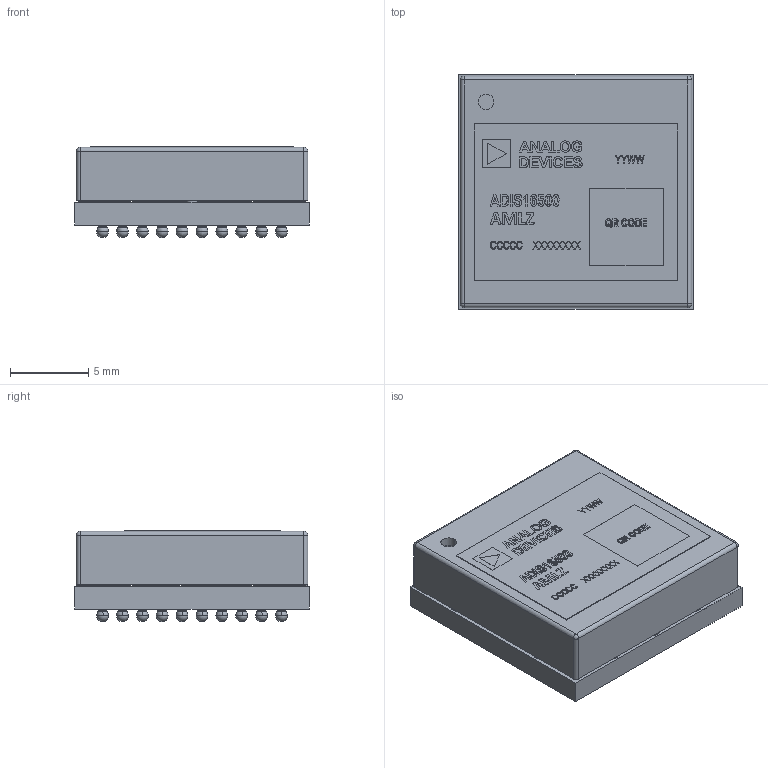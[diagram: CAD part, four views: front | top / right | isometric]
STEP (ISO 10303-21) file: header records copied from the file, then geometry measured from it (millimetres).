
FILE_DESCRIPTION (( 'STEP AP214' ), '1' );
FILE_NAME ('Falcon Assembly.STEP', '2019-03-15T19:11:51', ( 'AMOGH ZADBUKE' ), ( 'Analog Devices Inc.' ), 'SwSTEP 2.0', 'SolidWorks 2016', '' );
FILE_SCHEMA (( 'AUTOMOTIVE_DESIGN' ));
Length unit declared in the file: millimetre
Products named in the file (5): Falcon Laminate 2018; Brand Content; ball 2; Lid of Falcon for Laminate 2.0 feb 2018; Falcon Assembly
Assembly tree (103 placements, depth 2):
  Falcon Assembly
    Lid of Falcon for Laminate 2.0 feb 2018
    ball 2  x100
    Brand Content
    Falcon Laminate 2018
Bounding box: 15 x 15 x 5.83 mm (x, y, z)
Volume: 588.3 mm3; surface area: 1803.4 mm2
Topology: 103 solids, 103 shells, 1861 faces, 4409 edges, 2718 vertices
Faces by surface type: plane 577, cylinder 495, torus 406, bspline 271, sphere 112
Entity records: 48053 total; most frequent: CARTESIAN_POINT 20139, ORIENTED_EDGE 4630, DIRECTION 3407, EDGE_CURVE 2315, VECTOR 1551, LINE 1551, VERTEX_POINT 1528, EDGE_LOOP 969
